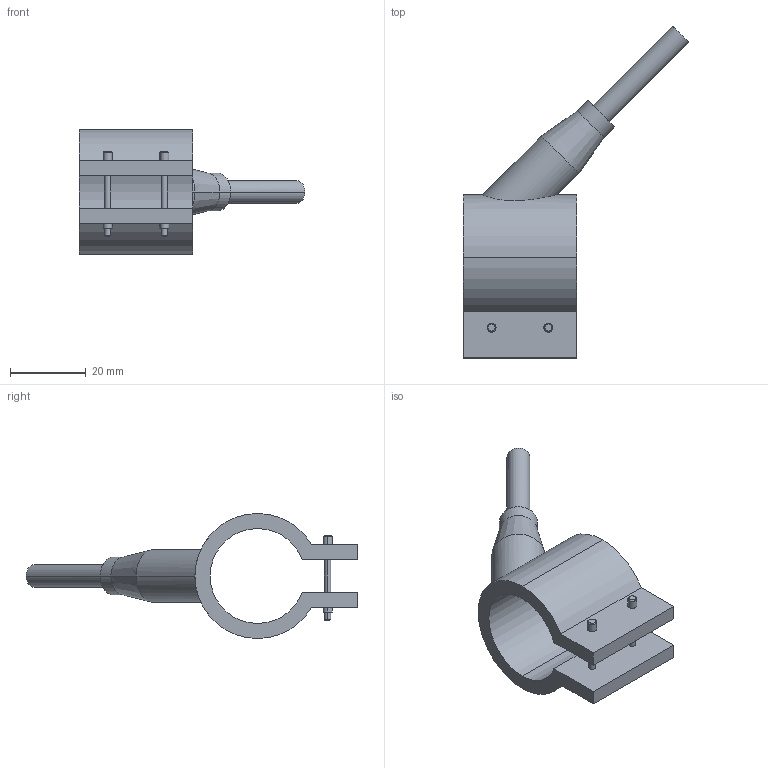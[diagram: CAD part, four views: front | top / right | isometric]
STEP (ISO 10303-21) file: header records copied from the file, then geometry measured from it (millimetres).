
FILE_DESCRIPTION(('CATIA V5 STEP Exchange'),'2;1');
FILE_NAME('C:\Users\Utente\Desktop\IO LAVORO\3D X SITO CF\X SITO\PLASTICA\RF1\29025030.stp','2021-03-27T09:08:48+00:00',('none'),('none'),'CATIA Version 5 Release 20 GA (IN-10)','CATIA V5 STEP AP203','none');
FILE_SCHEMA(('CONFIG_CONTROL_DESIGN'));
Length unit declared in the file: millimetre
Products named in the file (1): 29025030
Bounding box: 59.55 x 87.55 x 33 mm (x, y, z)
Volume: 17524 mm3; surface area: 9223.6 mm2
Topology: 1 solids, 1 shells, 54 faces, 123 edges, 79 vertices
Faces by surface type: cylinder 28, plane 16, cone 10
Entity records: 1723 total; most frequent: CARTESIAN_POINT 487, ORIENTED_EDGE 246, DIRECTION 215, EDGE_CURVE 123, AXIS2_PLACEMENT_3D 108, VERTEX_POINT 79, EDGE_LOOP 66, VECTOR 56
